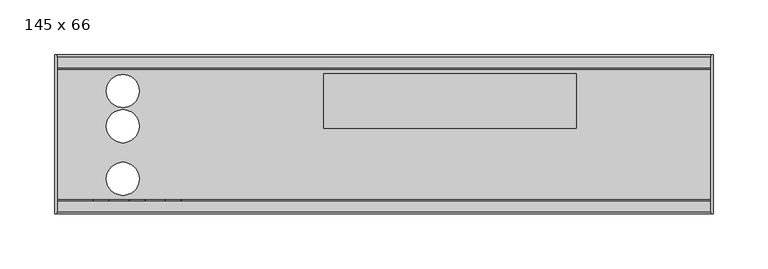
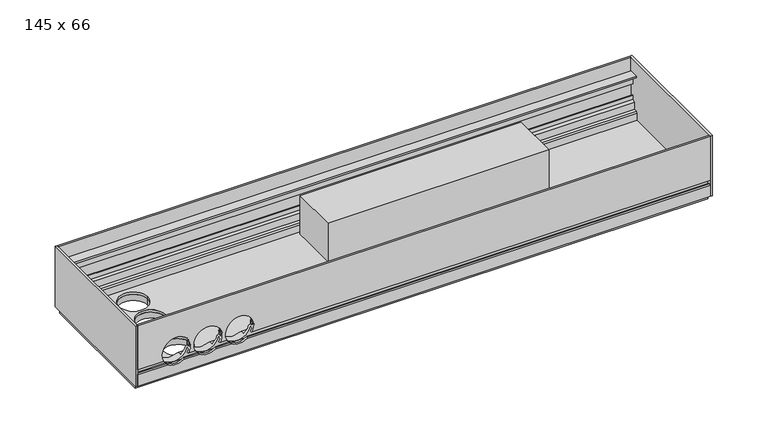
"""IFC4 building model written with IfcOpenShell, lengths in millimetres: proxy geometry, Mohlenhof_Внутрипольный конвектор_QSKM : 145 x 66."""

import ifcopenshell
import ifcopenshell.guid

model = None  # the IFC model being written
_history = None  # IfcOwnerHistory: only IFC2X3 demands one
_inside = {}  # id of a spatial element -> (the spatial element, [elements in it])
_under = {}  # id of a project, library or spatial element -> (it, [spatial elements below it])
_declared = {}  # id of a project -> (the project, [libraries it declares])
_typed = {}  # id of a type object -> (the type object, [elements of that type])
_made_of = {}  # id of a material, layer set ... -> (it, [elements and type objects made of it])


def new_model(schema):
    """Start an empty IFC model of exactly this schema.

    Asked for "IFC4X3", IfcOpenShell would pick the latest addendum, in which some entities
    have other attributes; the version numbers below select the first issue.
    IFC2X3 requires an IfcOwnerHistory on every rooted entity: one is made here for all.
    """
    global model, _history
    if schema == "IFC4X3":
        model = ifcopenshell.file(schema_version=(4, 3, 0, 0))
    else:
        model = ifcopenshell.file(schema=schema)
    _inside.clear()
    _under.clear()
    _declared.clear()
    _typed.clear()
    _made_of.clear()
    _history = None
    if model.schema == "IFC2X3":
        org = make("IfcOrganization", Name="unknown")
        user = make(
            "IfcPersonAndOrganization",
            ThePerson=make("IfcPerson", FamilyName="unknown"),
            TheOrganization=org,
        )
        app = make(
            "IfcApplication",
            ApplicationDeveloper=org,
            Version="unknown",
            ApplicationFullName="unknown",
            ApplicationIdentifier="unknown",
        )
        _history = make(
            "IfcOwnerHistory",
            OwningUser=user,
            OwningApplication=app,
            ChangeAction="ADDED",
            CreationDate=0,
        )
    return model


def make(cls, **values):
    """One entity of the class cls with the attributes given. An attribute that is None is left unset."""
    return model.create_entity(
        cls, **{name: value for name, value in values.items() if value is not None}
    )


def rooted(cls, **values):
    """An entity with a GlobalId (a new one), such as an element, a storey or a relation."""
    return make(cls, GlobalId=ifcopenshell.guid.new(), OwnerHistory=_history, **values)


def si_unit(unit_type, name, prefix=None):
    """IfcSIUnit, for example si_unit("LENGTHUNIT", "METRE", prefix="MILLI")."""
    return make("IfcSIUnit", UnitType=unit_type, Prefix=prefix, Name=name)


def assignment(units):
    """IfcUnitAssignment: the units of a project."""
    return None if units is None else make("IfcUnitAssignment", Units=units)


def point(xyz):
    """IfcCartesianPoint."""
    return None if xyz is None else make("IfcCartesianPoint", Coordinates=xyz)


def direction(xyz):
    """IfcDirection."""
    return None if xyz is None else make("IfcDirection", DirectionRatios=xyz)


def frame(location, z_axis=None, x_axis=None):
    """IfcAxis2Placement3D, a coordinate frame: its origin and axes. An axis left out is left unset."""
    return make(
        "IfcAxis2Placement3D",
        Location=point(location),
        Axis=direction(z_axis),
        RefDirection=direction(x_axis),
    )


def frame_2d(location, x_axis=None):
    """IfcAxis2Placement2D, a coordinate frame in the plane: its origin and x axis."""
    return make(
        "IfcAxis2Placement2D", Location=point(location), RefDirection=direction(x_axis)
    )


def origin():
    """The frame at (0, 0, 0) with its axes left unset."""
    return frame((0.0, 0.0, 0.0))


def place(relative_to, where):
    """IfcLocalPlacement: puts the frame where relative to a parent placement (None: the world)."""
    return make(
        "IfcLocalPlacement", PlacementRelTo=relative_to, RelativePlacement=where
    )


def context(
    kind, dimensions, precision=None, world=None, true_north=None, identifier=None
):
    """IfcGeometricRepresentationContext, for example the 3D "Model" context."""
    return make(
        "IfcGeometricRepresentationContext",
        ContextIdentifier=identifier,
        ContextType=kind,
        CoordinateSpaceDimension=dimensions,
        Precision=precision,
        WorldCoordinateSystem=world,
        TrueNorth=true_north,
    )


def project(units=None, contexts=None):
    """IfcProject with its units and contexts."""
    return rooted(
        "IfcProject",
        Name="project",
        RepresentationContexts=contexts,
        UnitsInContext=assignment(units),
    )


def spatial(cls, under=None, at=None, **own):
    """A site, building, storey or space (cls), placed at a placement, below another one or the project."""
    s = rooted(cls, ObjectPlacement=at, **own)
    if under is not None:
        _under.setdefault(under.id(), (under, []))[1].append(s)
    return s


def polyline(points):
    """IfcPolyline through the points."""
    return make("IfcPolyline", Points=[point(p) for p in points])


def circle_curve(where, radius):
    """IfcCircle in the frame where."""
    return make("IfcCircle", Position=where, Radius=radius)


def ellipse_curve(where, semi_axis1, semi_axis2):
    """IfcEllipse in the frame where."""
    return make(
        "IfcEllipse", Position=where, SemiAxis1=semi_axis1, SemiAxis2=semi_axis2
    )


def trimmed(basis, trim1, trim2, sense, master):
    """IfcTrimmedCurve: the piece of a basis curve between two trims."""
    return make(
        "IfcTrimmedCurve",
        BasisCurve=basis,
        Trim1=trim1,
        Trim2=trim2,
        SenseAgreement=sense,
        MasterRepresentation=master,
    )


def segment(curve, same_sense, transition):
    """IfcCompositeCurveSegment."""
    return make(
        "IfcCompositeCurveSegment",
        Transition=transition,
        SameSense=same_sense,
        ParentCurve=curve,
    )


def composite_curve(segments, self_intersect=None):
    """IfcCompositeCurve: segments joined end to end."""
    return make("IfcCompositeCurve", Segments=segments, SelfIntersect=self_intersect)


def outline(outer, holes=None, kind="AREA"):
    """IfcArbitraryClosedProfileDef: a profile drawn as a closed curve; with holes, ...WithVoids."""
    if holes is None:
        return make("IfcArbitraryClosedProfileDef", ProfileType=kind, OuterCurve=outer)
    return make(
        "IfcArbitraryProfileDefWithVoids",
        ProfileType=kind,
        OuterCurve=outer,
        InnerCurves=holes,
    )


def extrude(swept, where, along, depth):
    """IfcExtrudedAreaSolid: the profile swept, set in the frame where, extruded along a direction by depth."""
    return make(
        "IfcExtrudedAreaSolid",
        SweptArea=swept,
        Position=where,
        ExtrudedDirection=direction(along),
        Depth=depth,
    )


def shape(context_of_items, identifier, shape_type, items):
    """IfcShapeRepresentation: the items that make up one representation, for example the "Body"."""
    return make(
        "IfcShapeRepresentation",
        ContextOfItems=context_of_items,
        RepresentationIdentifier=identifier,
        RepresentationType=shape_type,
        Items=items,
    )


def source(mapping_origin, context_of_items, identifier, shape_type, items):
    """IfcRepresentationMap: a shape defined once, which mapped items show again and again."""
    return make(
        "IfcRepresentationMap",
        MappingOrigin=mapping_origin,
        MappedRepresentation=shape(context_of_items, identifier, shape_type, items),
    )


def transform(
    local_origin,
    x_axis=None,
    y_axis=None,
    z_axis=None,
    scale=None,
    scale2=None,
    scale3=None,
    uniform=True,
):
    """IfcCartesianTransformationOperator3D, or its non-uniform kind. x_axis, y_axis, z_axis: its Axis1, 2, 3."""
    if uniform:
        return make(
            "IfcCartesianTransformationOperator3D",
            Axis1=direction(x_axis),
            Axis2=direction(y_axis),
            LocalOrigin=point(local_origin),
            Scale=scale,
            Axis3=direction(z_axis),
        )
    return make(
        "IfcCartesianTransformationOperator3DnonUniform",
        Axis1=direction(x_axis),
        Axis2=direction(y_axis),
        LocalOrigin=point(local_origin),
        Scale=scale,
        Axis3=direction(z_axis),
        Scale2=scale2,
        Scale3=scale3,
    )


def mapped(mapping_source, mapping_target):
    """IfcMappedItem: shows the shape of a source again, moved by a transform."""
    return make(
        "IfcMappedItem", MappingSource=mapping_source, MappingTarget=mapping_target
    )


def made_of(thing, what):
    """Note that an element or type object is made of a material, layer set ...; save() writes the relation."""
    if what is not None:
        _made_of.setdefault(what.id(), (what, []))[1].append(thing)
    return thing


def element(
    cls,
    number,
    at=None,
    inside=None,
    cuts=None,
    type_object=None,
    material=None,
    context=None,
    identifier="Body",
    shape_type=None,
    held_by="IfcProductDefinitionShape",
    body=None,
    shapes=None,
    **own,
):
    """One element of the class cls, such as IfcWall. Its Tag is "e" and its number.

    at: its placement. inside: the storey or other place that contains it. cuts: it is an
    opening in that element (IfcRelVoidsElement). A single representation is given by context,
    identifier, shape_type and body (its items); several are given by shapes. held_by: the class
    of the entity that holds the representations. save() writes the other relations.
    """
    e = rooted(cls, Tag="e%d" % number, ObjectPlacement=at, **own)
    if body is not None:
        shapes = [shape(context, identifier, shape_type, body)]
    if shapes is not None:
        e.Representation = make(held_by, Representations=shapes)
    if inside is not None:
        _inside.setdefault(inside.id(), (inside, []))[1].append(e)
    if cuts is not None:
        rooted(
            "IfcRelVoidsElement", RelatingBuildingElement=cuts, RelatedOpeningElement=e
        )
    if type_object is not None:
        _typed.setdefault(type_object.id(), (type_object, []))[1].append(e)
    return made_of(e, material)


def aggregate(whole, parts):
    """IfcRelAggregates: a whole, such as a stair, and the parts it consists of."""
    return rooted("IfcRelAggregates", RelatingObject=whole, RelatedObjects=parts)


def save(model, path):
    """Write the relations noted so far, then the file.

    IfcRelAggregates (storeys below a building ...), IfcRelContainedInSpatialStructure (elements
    in a storey), IfcRelDefinesByType, IfcRelAssociatesMaterial and IfcRelDeclares: one each for
    every whole, place, type object, material and project.
    """
    for whole, parts in _under.values():
        aggregate(whole, parts)
    for where, things in _inside.values():
        rooted(
            "IfcRelContainedInSpatialStructure",
            RelatedElements=things,
            RelatingStructure=where,
        )
    for kind, things in _typed.values():
        rooted("IfcRelDefinesByType", RelatedObjects=things, RelatingType=kind)
    for what, things in _made_of.values():
        rooted("IfcRelAssociatesMaterial", RelatedObjects=things, RelatingMaterial=what)
    for by, libraries in _declared.values():
        rooted("IfcRelDeclares", RelatingContext=by, RelatedDefinitions=libraries)
    model.write(path)


def plane_surface(at):
    """IfcPlane: the flat surface through the origin of the frame at, square to its z axis."""
    return make("IfcPlane", Position=at)


def revolved_surface(curve, axis_point, axis_direction):
    """IfcSurfaceOfRevolution: the curve turned about the line through axis_point along axis_direction."""
    return make(
        "IfcSurfaceOfRevolution",
        SweptCurve=make("IfcArbitraryOpenProfileDef", ProfileType="CURVE", Curve=curve),
        AxisPosition=make("IfcAxis1Placement", Location=point(axis_point), Axis=direction(axis_direction)),
    )


def advanced_brep(points, edges, surfaces, faces):
    """IfcAdvancedBrep: a solid bounded by faces that lie on surfaces and meet in shared edges.

    An edge is (start, end): straight between two places in points (the first is 0);
    or (start, end, curve); or (start, end, curve, False) where it runs against its curve.
    A face is (place in surfaces, loops), or (place, loops, False) where it looks against
    its surface's normal. A loop lists edges by number (the first is 1), with a minus sign
    where the edge is run from its end to its start. The first loop is the outer one.
    """
    corners = [point(p) for p in points]
    vertices = [make("IfcVertexPoint", VertexGeometry=c) for c in corners]
    made = []
    for start, end, *more in edges:
        made.append(
            make(
                "IfcEdgeCurve",
                EdgeStart=vertices[start],
                EdgeEnd=vertices[end],
                EdgeGeometry=more[0] if more else make("IfcPolyline", Points=[corners[start], corners[end]]),
                SameSense=more[1] if len(more) > 1 else True,
            )
        )
    hull = []
    for where, loops, *sense in faces:
        bounds = []
        for j, loop in enumerate(loops):
            ring = [make("IfcOrientedEdge", EdgeElement=made[abs(k) - 1], Orientation=k > 0) for k in loop]
            bounds.append(
                make(
                    "IfcFaceOuterBound" if j == 0 else "IfcFaceBound",
                    Bound=make("IfcEdgeLoop", EdgeList=ring),
                    Orientation=True,
                )
            )
        hull.append(make("IfcAdvancedFace", Bounds=bounds, FaceSurface=surfaces[where], SameSense=sense[0] if sense else True))
    return make("IfcAdvancedBrep", Outer=make("IfcClosedShell", CfsFaces=hull))


def proxy_145_x_66_3a62f989(model_context):
    return source(origin(), model_context, "Body", "SolidModel", [
        advanced_brep(
        [(298.0, -245.0, -48.5473602), (298.0, -243.5, -49.2468216), (298.0, -242.5, -49.2468216), (298.0, -242.5, -46.0008038), (298.0, -240.0, -46.0008038), (298.0, -240.0, -56.5008038), (298.0, -242.5, -56.5008038), (298.0, -242.5, -53.2468216), (298.0, -243.5, -53.2468216), (298.0, -245.0, -53.9462831), (298.0, -245.0, -66.5), (298.0, -241.0, -66.5), (298.0, -241.0, -65.2), (298.0, -243.0, -65.2), (298.0, -243.0, -62.5), (298.0, -232.0, -62.5), (298.0, -232.0, -54.9172677), (298.0, -233.4172677, -53.5), (298.0, -237.0, -53.5), (298.0, -237.0, -45.91), (298.0, -239.0, -43.91), (298.0, -239.0, -39.5), (298.0, -240.0, -39.5), (298.0, -240.0, -43.5), (298.0, -242.4956439, -43.5), (298.0, -242.4956439, -23.0), (298.0, -240.0, -23.0), (298.0, -240.0, -27.0), (298.0, -239.0, -27.0), (298.0, -239.0, -17.0), (298.0, -233.3956439, -17.0), (298.0, -233.3956439, -15.0), (298.0, -243.4, -15.0), (298.0, -243.4, 0.0), (298.0, -245.0, 0.0), (-298.0, -245.0, -48.5473602), (-298.0, -245.0, 0.0), (-298.0, -243.4, 0.0), (-298.0, -243.4, -15.0), (-298.0, -233.3956439, -15.0), (-298.0, -233.3956439, -17.0), (-298.0, -239.0, -17.0), (-298.0, -239.0, -27.0), (-298.0, -240.0, -27.0), (-298.0, -240.0, -23.0), (-298.0, -242.4956439, -23.0), (-298.0, -242.4956439, -43.5), (-298.0, -240.0, -43.5), (-298.0, -240.0, -39.5), (-298.0, -239.0, -39.5), (-298.0, -239.0, -43.91), (-298.0, -237.0, -45.91), (-298.0, -237.0, -53.5), (-298.0, -233.4172677, -53.5), (-298.0, -232.0, -54.9172677), (-298.0, -232.0, -62.5), (-298.0, -243.0, -62.5), (-298.0, -243.0, -65.2), (-298.0, -241.0, -65.2), (-298.0, -241.0, -66.5), (-298.0, -245.0, -66.5), (-298.0, -245.0, -53.9462831), (-298.0, -243.5, -53.2468216), (-298.0, -242.5, -53.2468216), (-298.0, -242.5, -56.5008038), (-298.0, -240.0, -56.5008038), (-298.0, -240.0, -46.0008038), (-298.0, -242.5, -46.0008038), (-298.0, -242.5, -49.2468216), (-298.0, -243.5, -49.2468216), (-178.7585985, -245.0, -48.5473602), (-179.155283, -243.5, -49.2468216), (-270.844717, -243.5, -49.2468216), (-271.2414015, -245.0, -48.5473602), (-238.2414015, -245.0, -48.5473602), (-244.7585985, -245.0, -48.5473602), (-245.155283, -243.5, -49.2468216), (-237.844717, -243.5, -49.2468216), (-205.2414015, -245.0, -48.5473602), (-211.7585985, -245.0, -48.5473602), (-212.155283, -243.5, -49.2468216), (-204.844717, -243.5, -49.2468216), (-179.155283, -242.5, -49.2468216), (-270.844717, -242.5, -49.2468216), (-245.155283, -242.5, -49.2468216), (-237.844717, -242.5, -49.2468216), (-212.155283, -242.5, -49.2468216), (-204.844717, -242.5, -49.2468216), (-177.6911648, -242.5, -46.0008038), (-272.3088352, -242.5, -46.0008038), (-243.6911648, -242.5, -46.0008038), (-239.3088352, -242.5, -46.0008038), (-210.6911648, -242.5, -46.0008038), (-206.3088352, -242.5, -46.0008038), (-177.6911648, -240.0, -46.0008038), (-272.3088352, -240.0, -46.0008038), (-243.6911648, -240.0, -46.0008038), (-239.3088352, -240.0, -46.0008038), (-210.6911648, -240.0, -46.0008038), (-206.3088352, -240.0, -46.0008038), (-267.328032, -242.5, -53.2468216), (-248.671968, -242.5, -53.2468216), (-234.328032, -242.5, -53.2468216), (-215.671968, -242.5, -53.2468216), (-201.328032, -242.5, -53.2468216), (-182.671968, -242.5, -53.2468216), (-182.671968, -243.5, -53.2468216), (-267.328032, -243.5, -53.2468216), (-248.671968, -243.5, -53.2468216), (-234.328032, -243.5, -53.2468216), (-215.671968, -243.5, -53.2468216), (-201.328032, -243.5, -53.2468216), (-183.6280208, -245.0, -53.9462831), (-266.3719792, -245.0, -53.9462831), (-249.6280208, -245.0, -53.9462831), (-233.3719792, -245.0, -53.9462831), (-216.6280208, -245.0, -53.9462831), (-200.3719792, -245.0, -53.9462831), (-264.7064841, -232.0, -54.9172677), (-251.2935159, -232.0, -54.9172677), (-231.7064841, -232.0, -54.9172677), (-218.2935159, -232.0, -54.9172677), (-198.7064841, -232.0, -54.9172677), (-185.2935159, -232.0, -54.9172677), (-183.0, -233.4172677, -53.5), (-267.0, -233.4172677, -53.5), (-249.0, -233.4172677, -53.5), (-234.0, -233.4172677, -53.5), (-216.0, -233.4172677, -53.5), (-201.0, -233.4172677, -53.5), (-183.0, -237.0, -53.5), (-267.0, -237.0, -53.5), (-249.0, -237.0, -53.5), (-234.0, -237.0, -53.5), (-216.0, -237.0, -53.5), (-201.0, -237.0, -53.5), (-177.6629187, -237.0, -45.91), (-272.3370813, -237.0, -45.91), (-243.6629187, -237.0, -45.91), (-239.3370813, -237.0, -45.91), (-210.6629187, -237.0, -45.91), (-206.3370813, -237.0, -45.91), (-177.1948691, -239.0, -43.91), (-272.8051309, -239.0, -43.91), (-243.1948691, -239.0, -43.91), (-239.8051309, -239.0, -43.91), (-210.1948691, -239.0, -43.91), (-206.8051309, -239.0, -43.91), (-177.0, -239.0, -41.5), (-177.1339313, -239.0, -39.5), (-272.8660687, -239.0, -39.5), (-273.0, -239.0, -41.5), (-243.0, -239.0, -41.5), (-243.1339313, -239.0, -39.5), (-239.8660687, -239.0, -39.5), (-240.0, -239.0, -41.5), (-210.0, -239.0, -41.5), (-210.1339313, -239.0, -39.5), (-206.8660687, -239.0, -39.5), (-207.0, -239.0, -41.5), (-177.1339313, -240.0, -39.5), (-272.8660687, -240.0, -39.5), (-243.1339313, -240.0, -39.5), (-239.8660687, -240.0, -39.5), (-210.1339313, -240.0, -39.5), (-206.8660687, -240.0, -39.5), (-177.0, -240.0, -41.5), (-177.1339313, -240.0, -43.5), (-272.8660687, -240.0, -43.5), (-273.0, -240.0, -41.5), (-243.0, -240.0, -41.5), (-243.1339313, -240.0, -43.5), (-239.8660687, -240.0, -43.5), (-240.0, -240.0, -41.5), (-210.0, -240.0, -41.5), (-210.1339313, -240.0, -43.5), (-206.8660687, -240.0, -43.5), (-207.0, -240.0, -41.5), (-177.1339313, -242.4956439, -43.5), (-272.8660687, -242.4956439, -43.5), (-243.1339313, -242.4956439, -43.5), (-239.8660687, -242.4956439, -43.5), (-210.1339313, -242.4956439, -43.5), (-206.8660687, -242.4956439, -43.5), (-177.0, -242.4956439, -41.5), (-207.0, -242.4956439, -41.5), (-210.0, -242.4956439, -41.5), (-240.0, -242.4956439, -41.5), (-243.0, -242.4956439, -41.5), (-273.0, -242.4956439, -41.5), (-261.8405729, -240.0, -27.0), (-254.1594271, -240.0, -27.0), (-228.8405729, -240.0, -27.0), (-221.1594271, -240.0, -27.0), (-195.8405729, -240.0, -27.0), (-188.1594271, -240.0, -27.0), (-188.1594271, -239.0, -27.0), (-261.8405729, -239.0, -27.0), (-254.1594271, -239.0, -27.0), (-228.8405729, -239.0, -27.0), (-221.1594271, -239.0, -27.0), (-195.8405729, -239.0, -27.0), (-273.0, -245.0, -41.5), (-243.0, -245.0, -41.5), (-240.0, -245.0, -41.5), (-210.0, -245.0, -41.5), (-207.0, -245.0, -41.5), (-177.0, -245.0, -41.5)],
        [
            (0, 1),
            (1, 2),
            (2, 3),
            (3, 4),
            (4, 5),
            (5, 6),
            (6, 7),
            (7, 8),
            (8, 9),
            (9, 10),
            (10, 11),
            (11, 12),
            (12, 13),
            (13, 14),
            (14, 15),
            (15, 16),
            (16, 17),
            (17, 18),
            (18, 19),
            (19, 20),
            (20, 21),
            (21, 22),
            (22, 23),
            (23, 24),
            (24, 25),
            (25, 26),
            (26, 27),
            (27, 28),
            (28, 29),
            (29, 30),
            (30, 31),
            (31, 32),
            (32, 33),
            (33, 34),
            (34, 0),
            (35, 36),
            (36, 37),
            (37, 38),
            (38, 39),
            (39, 40),
            (40, 41),
            (41, 42),
            (42, 43),
            (43, 44),
            (44, 45),
            (45, 46),
            (46, 47),
            (47, 48),
            (48, 49),
            (49, 50),
            (50, 51),
            (51, 52),
            (52, 53),
            (53, 54),
            (54, 55),
            (55, 56),
            (56, 57),
            (57, 58),
            (58, 59),
            (59, 60),
            (60, 61),
            (61, 62),
            (62, 63),
            (63, 64),
            (64, 65),
            (65, 66),
            (66, 67),
            (67, 68),
            (68, 69),
            (69, 35),
            (0, 70),
            (70, 71, ellipse_curve(frame((-192.0, -260.1131126, -41.5), z_axis=(0.0, 0.42261826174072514, 0.9063077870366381), x_axis=(0.0, -0.9063077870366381, 0.42261826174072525)), 35.4930237, 15.0)),
            (71, 1),
            (69, 72),
            (72, 73, ellipse_curve(frame((-258.0, -260.1131126, -41.5), z_axis=(0.0, 0.42261826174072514, 0.9063077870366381), x_axis=(0.0, -0.9063077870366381, 0.42261826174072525)), 35.4930237, 15.0)),
            (73, 35),
            (74, 75),
            (75, 76, ellipse_curve(frame((-258.0, -260.1131126, -41.5), z_axis=(0.0, 0.42261826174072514, 0.9063077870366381), x_axis=(0.0, -0.9063077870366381, 0.42261826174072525)), 35.4930237, 15.0)),
            (76, 77),
            (77, 74, ellipse_curve(frame((-225.0, -260.1131126, -41.5), z_axis=(0.0, 0.42261826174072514, 0.9063077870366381), x_axis=(0.0, -0.9063077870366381, 0.42261826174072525)), 35.4930237, 15.0)),
            (78, 79),
            (79, 80, ellipse_curve(frame((-225.0, -260.1131126, -41.5), z_axis=(0.0, 0.42261826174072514, 0.9063077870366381), x_axis=(0.0, -0.9063077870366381, 0.42261826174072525)), 35.4930237, 15.0)),
            (80, 81),
            (81, 78, ellipse_curve(frame((-192.0, -260.1131126, -41.5), z_axis=(0.0, 0.42261826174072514, 0.9063077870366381), x_axis=(0.0, -0.9063077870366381, 0.42261826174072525)), 35.4930237, 15.0)),
            (71, 82),
            (82, 2),
            (68, 83),
            (83, 72),
            (76, 84),
            (84, 85),
            (85, 77),
            (80, 86),
            (86, 87),
            (87, 81),
            (82, 88, circle_curve(frame((-192.0, -242.5, -41.5), z_axis=(0.0, -1.0, 0.0), x_axis=(1.0, 0.0, 0.0)), 15.0)),
            (88, 3),
            (67, 89),
            (89, 83, circle_curve(frame((-258.0, -242.5, -41.5), z_axis=(0.0, -1.0, 0.0), x_axis=(1.0, 0.0, 0.0)), 15.0)),
            (84, 90, circle_curve(frame((-258.0, -242.5, -41.5), z_axis=(0.0, -1.0, 0.0), x_axis=(1.0, 0.0, 0.0)), 15.0)),
            (90, 91),
            (91, 85, circle_curve(frame((-225.0, -242.5, -41.5), z_axis=(0.0, -1.0, 0.0), x_axis=(1.0, 0.0, 0.0)), 15.0)),
            (86, 92, circle_curve(frame((-225.0, -242.5, -41.5), z_axis=(0.0, -1.0, 0.0), x_axis=(1.0, 0.0, 0.0)), 15.0)),
            (92, 93),
            (93, 87, circle_curve(frame((-192.0, -242.5, -41.5), z_axis=(0.0, -1.0, 0.0), x_axis=(1.0, 0.0, 0.0)), 15.0)),
            (88, 94),
            (94, 4),
            (66, 95),
            (95, 89),
            (90, 96),
            (96, 97),
            (97, 91),
            (92, 98),
            (98, 99),
            (99, 93),
            (94, 99, circle_curve(frame((-192.0, -240.0, -41.5), z_axis=(0.0, 1.0, 0.0), x_axis=(1.0, 0.0, 0.0)), 15.0)),
            (98, 97, circle_curve(frame((-225.0, -240.0, -41.5), z_axis=(0.0, 1.0, 0.0), x_axis=(1.0, 0.0, 0.0)), 15.0)),
            (96, 95, circle_curve(frame((-258.0, -240.0, -41.5), z_axis=(0.0, 1.0, 0.0), x_axis=(1.0, 0.0, 0.0)), 15.0)),
            (65, 5),
            (64, 6),
            (63, 100),
            (100, 101, circle_curve(frame((-258.0, -242.5, -41.5), z_axis=(0.0, -1.0, 0.0), x_axis=(1.0, 0.0, 0.0)), 15.0)),
            (101, 102),
            (102, 103, circle_curve(frame((-225.0, -242.5, -41.5), z_axis=(0.0, -1.0, 0.0), x_axis=(1.0, 0.0, 0.0)), 15.0)),
            (103, 104),
            (104, 105, circle_curve(frame((-192.0, -242.5, -41.5), z_axis=(0.0, -1.0, 0.0), x_axis=(1.0, 0.0, 0.0)), 15.0)),
            (105, 7),
            (105, 106),
            (106, 8),
            (62, 107),
            (107, 100),
            (101, 108),
            (108, 109),
            (109, 102),
            (103, 110),
            (110, 111),
            (111, 104),
            (106, 112, ellipse_curve(frame((-192.0, -218.3088597, -41.5), z_axis=(0.0, 0.42261826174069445, -0.9063077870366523), x_axis=(0.0, -0.9063077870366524, -0.42261826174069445)), 35.4930237, 15.0)),
            (112, 9),
            (61, 113),
            (113, 107, ellipse_curve(frame((-258.0, -218.3088597, -41.5), z_axis=(0.0, 0.42261826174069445, -0.9063077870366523), x_axis=(0.0, -0.9063077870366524, -0.42261826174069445)), 35.4930237, 15.0)),
            (108, 114, ellipse_curve(frame((-258.0, -218.3088597, -41.5), z_axis=(0.0, 0.42261826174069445, -0.9063077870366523), x_axis=(0.0, -0.9063077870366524, -0.42261826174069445)), 35.4930237, 15.0)),
            (114, 115),
            (115, 109, ellipse_curve(frame((-225.0, -218.3088597, -41.5), z_axis=(0.0, 0.42261826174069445, -0.9063077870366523), x_axis=(0.0, -0.9063077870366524, -0.42261826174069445)), 35.4930237, 15.0)),
            (110, 116, ellipse_curve(frame((-225.0, -218.3088597, -41.5), z_axis=(0.0, 0.42261826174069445, -0.9063077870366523), x_axis=(0.0, -0.9063077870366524, -0.42261826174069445)), 35.4930237, 15.0)),
            (116, 117),
            (117, 111, ellipse_curve(frame((-192.0, -218.3088597, -41.5), z_axis=(0.0, 0.42261826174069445, -0.9063077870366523), x_axis=(0.0, -0.9063077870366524, -0.42261826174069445)), 35.4930237, 15.0)),
            (112, 117, circle_curve(frame((-192.0, -245.0, -41.5), z_axis=(0.0, 1.0, 0.0), x_axis=(1.0, 0.0, 0.0)), 15.0)),
            (116, 115, circle_curve(frame((-225.0, -245.0, -41.5), z_axis=(0.0, 1.0, 0.0), x_axis=(1.0, 0.0, 0.0)), 15.0)),
            (114, 113, circle_curve(frame((-258.0, -245.0, -41.5), z_axis=(0.0, 1.0, 0.0), x_axis=(1.0, 0.0, 0.0)), 15.0)),
            (60, 10),
            (59, 11),
            (58, 12),
            (57, 13),
            (56, 14),
            (55, 15),
            (54, 118),
            (118, 119, circle_curve(frame((-258.0, -232.0, -41.5), z_axis=(0.0, -1.0, 0.0), x_axis=(1.0, 0.0, 0.0)), 15.0)),
            (119, 120),
            (120, 121, circle_curve(frame((-225.0, -232.0, -41.5), z_axis=(0.0, -1.0, 0.0), x_axis=(1.0, 0.0, 0.0)), 15.0)),
            (121, 122),
            (122, 123, circle_curve(frame((-192.0, -232.0, -41.5), z_axis=(0.0, -1.0, 0.0), x_axis=(1.0, 0.0, 0.0)), 15.0)),
            (123, 16),
            (123, 124, ellipse_curve(frame((-192.0, -245.4172677, -41.5), z_axis=(0.0, -0.7071067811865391, -0.707106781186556), x_axis=(0.0, -0.7071067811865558, 0.7071067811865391)), 21.2132034, 15.0)),
            (124, 17),
            (53, 125),
            (125, 118, ellipse_curve(frame((-258.0, -245.4172677, -41.5), z_axis=(0.0, -0.7071067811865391, -0.707106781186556), x_axis=(0.0, -0.7071067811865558, 0.7071067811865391)), 21.2132034, 15.0)),
            (119, 126, ellipse_curve(frame((-258.0, -245.4172677, -41.5), z_axis=(0.0, -0.7071067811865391, -0.707106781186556), x_axis=(0.0, -0.7071067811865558, 0.7071067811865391)), 21.2132034, 15.0)),
            (126, 127),
            (127, 120, ellipse_curve(frame((-225.0, -245.4172677, -41.5), z_axis=(0.0, -0.7071067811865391, -0.707106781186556), x_axis=(0.0, -0.7071067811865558, 0.7071067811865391)), 21.2132034, 15.0)),
            (121, 128, ellipse_curve(frame((-225.0, -245.4172677, -41.5), z_axis=(0.0, -0.7071067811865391, -0.707106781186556), x_axis=(0.0, -0.7071067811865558, 0.7071067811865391)), 21.2132034, 15.0)),
            (128, 129),
            (129, 122, ellipse_curve(frame((-192.0, -245.4172677, -41.5), z_axis=(0.0, -0.7071067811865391, -0.707106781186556), x_axis=(0.0, -0.7071067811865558, 0.7071067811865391)), 21.2132034, 15.0)),
            (124, 130),
            (130, 18),
            (52, 131),
            (131, 125),
            (126, 132),
            (132, 133),
            (133, 127),
            (128, 134),
            (134, 135),
            (135, 129),
            (130, 136, circle_curve(frame((-192.0, -237.0, -41.5), z_axis=(0.0, -1.0, 0.0), x_axis=(1.0, 0.0, 0.0)), 15.0)),
            (136, 19),
            (51, 137),
            (137, 131, circle_curve(frame((-258.0, -237.0, -41.5), z_axis=(0.0, -1.0, 0.0), x_axis=(1.0, 0.0, 0.0)), 15.0)),
            (132, 138, circle_curve(frame((-258.0, -237.0, -41.5), z_axis=(0.0, -1.0, 0.0), x_axis=(1.0, 0.0, 0.0)), 15.0)),
            (138, 139),
            (139, 133, circle_curve(frame((-225.0, -237.0, -41.5), z_axis=(0.0, -1.0, 0.0), x_axis=(1.0, 0.0, 0.0)), 15.0)),
            (134, 140, circle_curve(frame((-225.0, -237.0, -41.5), z_axis=(0.0, -1.0, 0.0), x_axis=(1.0, 0.0, 0.0)), 15.0)),
            (140, 141),
            (141, 135, circle_curve(frame((-192.0, -237.0, -41.5), z_axis=(0.0, -1.0, 0.0), x_axis=(1.0, 0.0, 0.0)), 15.0)),
            (136, 142, ellipse_curve(frame((-192.0, -241.41, -41.5), z_axis=(0.0, -0.7071067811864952, -0.7071067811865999), x_axis=(0.0, -0.7071067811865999, 0.7071067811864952)), 21.2132034, 15.0)),
            (142, 20),
            (50, 143),
            (143, 137, ellipse_curve(frame((-258.0, -241.41, -41.5), z_axis=(0.0, -0.7071067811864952, -0.7071067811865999), x_axis=(0.0, -0.7071067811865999, 0.7071067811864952)), 21.2132034, 15.0)),
            (138, 144, ellipse_curve(frame((-258.0, -241.41, -41.5), z_axis=(0.0, -0.7071067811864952, -0.7071067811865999), x_axis=(0.0, -0.7071067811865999, 0.7071067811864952)), 21.2132034, 15.0)),
            (144, 145),
            (145, 139, ellipse_curve(frame((-225.0, -241.41, -41.5), z_axis=(0.0, -0.7071067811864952, -0.7071067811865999), x_axis=(0.0, -0.7071067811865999, 0.7071067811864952)), 21.2132034, 15.0)),
            (140, 146, ellipse_curve(frame((-225.0, -241.41, -41.5), z_axis=(0.0, -0.7071067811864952, -0.7071067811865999), x_axis=(0.0, -0.7071067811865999, 0.7071067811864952)), 21.2132034, 15.0)),
            (146, 147),
            (147, 141, ellipse_curve(frame((-192.0, -241.41, -41.5), z_axis=(0.0, -0.7071067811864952, -0.7071067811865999), x_axis=(0.0, -0.7071067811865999, 0.7071067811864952)), 21.2132034, 15.0)),
            (142, 148, circle_curve(frame((-192.0, -239.0, -41.5), z_axis=(0.0, -1.0, 0.0), x_axis=(1.0, 0.0, 0.0)), 15.0)),
            (148, 149, circle_curve(frame((-192.0, -239.0, -41.5), z_axis=(0.0, -1.0, 0.0), x_axis=(1.0, 0.0, 0.0)), 15.0)),
            (149, 21),
            (49, 150),
            (150, 151, circle_curve(frame((-258.0, -239.0, -41.5), z_axis=(0.0, -1.0, 0.0), x_axis=(1.0, 0.0, 0.0)), 15.0)),
            (151, 143, circle_curve(frame((-258.0, -239.0, -41.5), z_axis=(0.0, -1.0, 0.0), x_axis=(1.0, 0.0, 0.0)), 15.0)),
            (144, 152, circle_curve(frame((-258.0, -239.0, -41.5), z_axis=(0.0, -1.0, 0.0), x_axis=(1.0, 0.0, 0.0)), 15.0)),
            (152, 153, circle_curve(frame((-258.0, -239.0, -41.5), z_axis=(0.0, -1.0, 0.0), x_axis=(1.0, 0.0, 0.0)), 15.0)),
            (153, 154),
            (154, 155, circle_curve(frame((-225.0, -239.0, -41.5), z_axis=(0.0, -1.0, 0.0), x_axis=(1.0, 0.0, 0.0)), 15.0)),
            (155, 145, circle_curve(frame((-225.0, -239.0, -41.5), z_axis=(0.0, -1.0, 0.0), x_axis=(1.0, 0.0, 0.0)), 15.0)),
            (146, 156, circle_curve(frame((-225.0, -239.0, -41.5), z_axis=(0.0, -1.0, 0.0), x_axis=(1.0, 0.0, 0.0)), 15.0)),
            (156, 157, circle_curve(frame((-225.0, -239.0, -41.5), z_axis=(0.0, -1.0, 0.0), x_axis=(1.0, 0.0, 0.0)), 15.0)),
            (157, 158),
            (158, 159, circle_curve(frame((-192.0, -239.0, -41.5), z_axis=(0.0, -1.0, 0.0), x_axis=(1.0, 0.0, 0.0)), 15.0)),
            (159, 147, circle_curve(frame((-192.0, -239.0, -41.5), z_axis=(0.0, -1.0, 0.0), x_axis=(1.0, 0.0, 0.0)), 15.0)),
            (149, 160),
            (160, 22),
            (48, 161),
            (161, 150),
            (153, 162),
            (162, 163),
            (163, 154),
            (157, 164),
            (164, 165),
            (165, 158),
            (160, 166, circle_curve(frame((-192.0, -240.0, -41.5), z_axis=(0.0, 1.0, 0.0), x_axis=(1.0, 0.0, 0.0)), 15.0)),
            (166, 167, circle_curve(frame((-192.0, -240.0, -41.5), z_axis=(0.0, 1.0, 0.0), x_axis=(1.0, 0.0, 0.0)), 15.0)),
            (167, 23),
            (47, 168),
            (168, 169, circle_curve(frame((-258.0, -240.0, -41.5), z_axis=(0.0, 1.0, 0.0), x_axis=(1.0, 0.0, 0.0)), 15.0)),
            (169, 161, circle_curve(frame((-258.0, -240.0, -41.5), z_axis=(0.0, 1.0, 0.0), x_axis=(1.0, 0.0, 0.0)), 15.0)),
            (162, 170, circle_curve(frame((-258.0, -240.0, -41.5), z_axis=(0.0, 1.0, 0.0), x_axis=(1.0, 0.0, 0.0)), 15.0)),
            (170, 171, circle_curve(frame((-258.0, -240.0, -41.5), z_axis=(0.0, 1.0, 0.0), x_axis=(1.0, 0.0, 0.0)), 15.0)),
            (171, 172),
            (172, 173, circle_curve(frame((-225.0, -240.0, -41.5), z_axis=(0.0, 1.0, 0.0), x_axis=(1.0, 0.0, 0.0)), 15.0)),
            (173, 163, circle_curve(frame((-225.0, -240.0, -41.5), z_axis=(0.0, 1.0, 0.0), x_axis=(1.0, 0.0, 0.0)), 15.0)),
            (164, 174, circle_curve(frame((-225.0, -240.0, -41.5), z_axis=(0.0, 1.0, 0.0), x_axis=(1.0, 0.0, 0.0)), 15.0)),
            (174, 175, circle_curve(frame((-225.0, -240.0, -41.5), z_axis=(0.0, 1.0, 0.0), x_axis=(1.0, 0.0, 0.0)), 15.0)),
            (175, 176),
            (176, 177, circle_curve(frame((-192.0, -240.0, -41.5), z_axis=(0.0, 1.0, 0.0), x_axis=(1.0, 0.0, 0.0)), 15.0)),
            (177, 165, circle_curve(frame((-192.0, -240.0, -41.5), z_axis=(0.0, 1.0, 0.0), x_axis=(1.0, 0.0, 0.0)), 15.0)),
            (167, 178),
            (178, 24),
            (46, 179),
            (179, 168),
            (171, 180),
            (180, 181),
            (181, 172),
            (175, 182),
            (182, 183),
            (183, 176),
            (178, 184, circle_curve(frame((-192.0, -242.4956439, -41.5), z_axis=(0.0, -1.0, 0.0), x_axis=(1.0, 0.0, 0.0)), 15.0)),
            (184, 185, circle_curve(frame((-192.0, -242.4956439, -41.5), z_axis=(0.0, -1.0, 0.0), x_axis=(1.0, 0.0, 0.0)), 15.0)),
            (185, 183, circle_curve(frame((-192.0, -242.4956439, -41.5), z_axis=(0.0, -1.0, 0.0), x_axis=(1.0, 0.0, 0.0)), 15.0)),
            (182, 186, circle_curve(frame((-225.0, -242.4956439, -41.5), z_axis=(0.0, -1.0, 0.0), x_axis=(1.0, 0.0, 0.0)), 15.0)),
            (186, 187, circle_curve(frame((-225.0, -242.4956439, -41.5), z_axis=(0.0, -1.0, 0.0), x_axis=(1.0, 0.0, 0.0)), 15.0)),
            (187, 181, circle_curve(frame((-225.0, -242.4956439, -41.5), z_axis=(0.0, -1.0, 0.0), x_axis=(1.0, 0.0, 0.0)), 15.0)),
            (180, 188, circle_curve(frame((-258.0, -242.4956439, -41.5), z_axis=(0.0, -1.0, 0.0), x_axis=(1.0, 0.0, 0.0)), 15.0)),
            (188, 189, circle_curve(frame((-258.0, -242.4956439, -41.5), z_axis=(0.0, -1.0, 0.0), x_axis=(1.0, 0.0, 0.0)), 15.0)),
            (189, 179, circle_curve(frame((-258.0, -242.4956439, -41.5), z_axis=(0.0, -1.0, 0.0), x_axis=(1.0, 0.0, 0.0)), 15.0)),
            (45, 25),
            (44, 26),
            (43, 190),
            (190, 191, circle_curve(frame((-258.0, -240.0, -41.5), z_axis=(0.0, 1.0, 0.0), x_axis=(1.0, 0.0, 0.0)), 15.0)),
            (191, 192),
            (192, 193, circle_curve(frame((-225.0, -240.0, -41.5), z_axis=(0.0, 1.0, 0.0), x_axis=(1.0, 0.0, 0.0)), 15.0)),
            (193, 194),
            (194, 195, circle_curve(frame((-192.0, -240.0, -41.5), z_axis=(0.0, 1.0, 0.0), x_axis=(1.0, 0.0, 0.0)), 15.0)),
            (195, 27),
            (195, 196),
            (196, 28),
            (42, 197),
            (197, 190),
            (191, 198),
            (198, 199),
            (199, 192),
            (193, 200),
            (200, 201),
            (201, 194),
            (196, 201, circle_curve(frame((-192.0, -239.0, -41.5), z_axis=(0.0, -1.0, 0.0), x_axis=(1.0, 0.0, 0.0)), 15.0)),
            (200, 199, circle_curve(frame((-225.0, -239.0, -41.5), z_axis=(0.0, -1.0, 0.0), x_axis=(1.0, 0.0, 0.0)), 15.0)),
            (198, 197, circle_curve(frame((-258.0, -239.0, -41.5), z_axis=(0.0, -1.0, 0.0), x_axis=(1.0, 0.0, 0.0)), 15.0)),
            (41, 29),
            (40, 30),
            (39, 31),
            (38, 32),
            (37, 33),
            (36, 34),
            (73, 202, circle_curve(frame((-258.0, -245.0, -41.5), z_axis=(0.0, 1.0, 0.0), x_axis=(1.0, 0.0, 0.0)), 15.0)),
            (202, 203, circle_curve(frame((-258.0, -245.0, -41.5), z_axis=(0.0, 1.0, 0.0), x_axis=(1.0, 0.0, 0.0)), 15.0)),
            (203, 75, circle_curve(frame((-258.0, -245.0, -41.5), z_axis=(0.0, 1.0, 0.0), x_axis=(1.0, 0.0, 0.0)), 15.0)),
            (74, 204, circle_curve(frame((-225.0, -245.0, -41.5), z_axis=(0.0, 1.0, 0.0), x_axis=(1.0, 0.0, 0.0)), 15.0)),
            (204, 205, circle_curve(frame((-225.0, -245.0, -41.5), z_axis=(0.0, 1.0, 0.0), x_axis=(1.0, 0.0, 0.0)), 15.0)),
            (205, 79, circle_curve(frame((-225.0, -245.0, -41.5), z_axis=(0.0, 1.0, 0.0), x_axis=(1.0, 0.0, 0.0)), 15.0)),
            (78, 206, circle_curve(frame((-192.0, -245.0, -41.5), z_axis=(0.0, 1.0, 0.0), x_axis=(1.0, 0.0, 0.0)), 15.0)),
            (206, 207, circle_curve(frame((-192.0, -245.0, -41.5), z_axis=(0.0, 1.0, 0.0), x_axis=(1.0, 0.0, 0.0)), 15.0)),
            (207, 70, circle_curve(frame((-192.0, -245.0, -41.5), z_axis=(0.0, 1.0, 0.0), x_axis=(1.0, 0.0, 0.0)), 15.0)),
            (151, 169),
            (189, 202),
            (203, 188),
            (170, 152),
            (155, 173),
            (187, 204),
            (205, 186),
            (174, 156),
            (159, 177),
            (185, 206),
            (207, 184),
            (166, 148),
        ],
        [
            plane_surface(frame((298.0, -243.0, -62.5), z_axis=(1.0, 0.0, 0.0), x_axis=(0.0, 0.0, 1.0))),
            plane_surface(frame((-298.0, -243.0, -62.5), z_axis=(-1.0, 0.0, 0.0), x_axis=(0.0, 0.0, 1.0))),
            plane_surface(frame((298.0, -245.0, -48.5473602), z_axis=(0.0, -0.42261826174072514, -0.9063077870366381), x_axis=(-1.0, 0.0, 0.0))),
            plane_surface(frame((298.0, -243.5, -49.2468216), z_axis=(0.0, 0.0, -1.0), x_axis=(-1.0, 0.0, 0.0))),
            plane_surface(frame((298.0, -242.5, -49.2468216), z_axis=(0.0, 1.0, 0.0), x_axis=(-1.0, 0.0, 0.0))),
            plane_surface(frame((298.0, -242.5, -46.0008038), z_axis=(0.0, 0.0, -1.0), x_axis=(-1.0, 0.0, 0.0))),
            plane_surface(frame((298.0, -240.0, -46.0008038), z_axis=(0.0, -1.0, 0.0), x_axis=(-1.0, 0.0, 0.0))),
            plane_surface(frame((298.0, -240.0, -56.5008038), z_axis=(0.0, 0.0, 1.0), x_axis=(-1.0, 0.0, 0.0))),
            plane_surface(frame((298.0, -242.5, -56.5008038), z_axis=(0.0, 1.0, 0.0), x_axis=(-1.0, 0.0, 0.0))),
            plane_surface(frame((298.0, -242.5, -53.2468216), z_axis=(0.0, 0.0, 1.0), x_axis=(-1.0, 0.0, 0.0))),
            plane_surface(frame((298.0, -243.5, -53.2468216), z_axis=(0.0, -0.42261826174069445, 0.9063077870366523), x_axis=(-1.0, 0.0, 0.0))),
            plane_surface(frame((298.0, -245.0, -53.9462831), z_axis=(0.0, -1.0, 0.0), x_axis=(-1.0, 0.0, 0.0))),
            plane_surface(frame((298.0, -245.0, -66.5), z_axis=(0.0, 0.0, -1.0), x_axis=(-1.0, 0.0, 0.0))),
            plane_surface(frame((298.0, -241.0, -66.5), z_axis=(0.0, 1.0, 0.0), x_axis=(-1.0, 0.0, 0.0))),
            plane_surface(frame((298.0, -241.0, -65.2), z_axis=(0.0, 0.0, 1.0), x_axis=(-1.0, 0.0, 0.0))),
            plane_surface(frame((298.0, -243.0, -65.2), z_axis=(0.0, 1.0, 0.0), x_axis=(-1.0, 0.0, 0.0))),
            plane_surface(frame((298.0, -243.0, -62.5), z_axis=(0.0, 0.0, -1.0), x_axis=(-1.0, 0.0, 0.0))),
            plane_surface(frame((298.0, -232.0, -62.5), z_axis=(0.0, 1.0, 0.0), x_axis=(-1.0, 0.0, 0.0))),
            plane_surface(frame((298.0, -232.0, -54.9172677), z_axis=(0.0, 0.7071067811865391, 0.707106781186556), x_axis=(-1.0, 0.0, 0.0))),
            plane_surface(frame((298.0, -233.4172677, -53.5), z_axis=(0.0, 0.0, 1.0), x_axis=(-1.0, 0.0, 0.0))),
            plane_surface(frame((298.0, -237.0, -53.5), z_axis=(0.0, 1.0, 0.0), x_axis=(-1.0, 0.0, 0.0))),
            plane_surface(frame((298.0, -237.0, -45.91), z_axis=(0.0, 0.7071067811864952, 0.7071067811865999), x_axis=(-1.0, 0.0, 0.0))),
            plane_surface(frame((298.0, -239.0, -43.91), z_axis=(0.0, 1.0, 0.0), x_axis=(-1.0, 0.0, 0.0))),
            plane_surface(frame((298.0, -239.0, -39.5), z_axis=(0.0, 0.0, 1.0), x_axis=(-1.0, 0.0, 0.0))),
            plane_surface(frame((298.0, -240.0, -39.5), z_axis=(0.0, -1.0, 0.0), x_axis=(-1.0, 0.0, 0.0))),
            plane_surface(frame((298.0, -240.0, -43.5), z_axis=(0.0, 0.0, 1.0), x_axis=(-1.0, 0.0, 0.0))),
            plane_surface(frame((298.0, -242.4956439, -43.5), z_axis=(0.0, 1.0, 0.0), x_axis=(-1.0, 0.0, 0.0))),
            plane_surface(frame((298.0, -242.4956439, -23.0), z_axis=(0.0, 0.0, -1.0), x_axis=(-1.0, 0.0, 0.0))),
            plane_surface(frame((298.0, -240.0, -23.0), z_axis=(0.0, -1.0, 0.0), x_axis=(-1.0, 0.0, 0.0))),
            plane_surface(frame((298.0, -240.0, -27.0), z_axis=(0.0, 0.0, -1.0), x_axis=(-1.0, 0.0, 0.0))),
            plane_surface(frame((298.0, -239.0, -27.0), z_axis=(0.0, 1.0, 0.0), x_axis=(-1.0, 0.0, 0.0))),
            plane_surface(frame((298.0, -239.0, -17.0), z_axis=(0.0, 0.0, -1.0), x_axis=(-1.0, 0.0, 0.0))),
            plane_surface(frame((298.0, -233.3956439, -17.0), z_axis=(0.0, 1.0, 0.0), x_axis=(-1.0, 0.0, 0.0))),
            plane_surface(frame((298.0, -233.3956439, -15.0), z_axis=(0.0, 0.0, 1.0), x_axis=(-1.0, 0.0, 0.0))),
            plane_surface(frame((298.0, -243.4, -15.0), z_axis=(0.0, 1.0, 0.0), x_axis=(-1.0, 0.0, 0.0))),
            plane_surface(frame((298.0, -243.4, 0.0), z_axis=(0.0, 0.0, 1.0), x_axis=(-1.0, 0.0, 0.0))),
            plane_surface(frame((298.0, -245.0, 0.0), z_axis=(0.0, -1.0, 0.0), x_axis=(-1.0, 0.0, 0.0))),
            revolved_surface(polyline([(-243.0, -250.47646346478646, -41.5), (-243.0, -186.14125593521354, -41.5)]), (-258.0, -213.0, -41.5), (0.0, -1.0, 0.0)),
            revolved_surface(polyline([(-243.0, -292.280716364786, -41.5), (-243.0, -226.41000002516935, -41.5)]), (-258.0, -213.0, -41.5), (0.0, -1.0, 0.0)),
            revolved_surface(polyline([(-243.0, -240.0, -41.5), (-243.0, -239.0, -41.5)]), (-258.0, -213.0, -41.5), (0.0, -1.0, 0.0)),
            revolved_surface(polyline([(-243.0, -245.0, -41.5), (-243.0, -242.4956439, -41.5)]), (-258.0, -213.0, -41.5), (0.0, -1.0, 0.0)),
            revolved_surface(polyline([(-210.0, -250.47646346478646, -41.5), (-210.0, -186.14125593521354, -41.5)]), (-225.0, 0.0, -41.5), (0.0, -1.0, 0.0)),
            revolved_surface(polyline([(-210.0, -292.280716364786, -41.5), (-210.0, -226.41000002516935, -41.5)]), (-225.0, 0.0, -41.5), (0.0, -1.0, 0.0)),
            revolved_surface(polyline([(-210.0, -240.0, -41.5), (-210.0, -239.0, -41.5)]), (-225.0, 0.0, -41.5), (0.0, -1.0, 0.0)),
            revolved_surface(polyline([(-210.0, -245.0, -41.5), (-210.0, -242.4956439, -41.5)]), (-225.0, 0.0, -41.5), (0.0, -1.0, 0.0)),
            revolved_surface(polyline([(-177.0, -250.47646346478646, -41.5), (-177.0, -186.14125593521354, -41.5)]), (-192.0, 0.0, -41.5), (0.0, -1.0, 0.0)),
            revolved_surface(polyline([(-177.0, -292.280716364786, -41.5), (-177.0, -226.41000002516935, -41.5)]), (-192.0, 0.0, -41.5), (0.0, -1.0, 0.0)),
            revolved_surface(polyline([(-177.0, -240.0, -41.5), (-177.0, -239.0, -41.5)]), (-192.0, 0.0, -41.5), (0.0, -1.0, 0.0)),
            revolved_surface(polyline([(-177.0, -245.0, -41.5), (-177.0, -242.4956439, -41.5)]), (-192.0, 0.0, -41.5), (0.0, -1.0, 0.0)),
        ],
        [
            (0, [[1, 2, 3, 4, 5, 6, 7, 8, 9, 10, 11, 12, 13, 14, 15, 16, 17, 18, 19, 20, 21, 22, 23, 24, 25, 26, 27, 28, 29, 30, 31, 32, 33, 34, 35]]),
            (1, [[36, 37, 38, 39, 40, 41, 42, 43, 44, 45, 46, 47, 48, 49, 50, 51, 52, 53, 54, 55, 56, 57, 58, 59, 60, 61, 62, 63, 64, 65, 66, 67, 68, 69, 70]]),
            (2, [[-1, 71, 72, 73]]),
            (2, [[-70, 74, 75, 76]]),
            (2, [[77, 78, 79, 80]]),
            (2, [[81, 82, 83, 84]]),
            (3, [[-2, -73, 85, 86]]),
            (3, [[-69, 87, 88, -74]]),
            (3, [[-79, 89, 90, 91]]),
            (3, [[-83, 92, 93, 94]]),
            (4, [[-3, -86, 95, 96]]),
            (4, [[-68, 97, 98, -87]]),
            (4, [[-90, 99, 100, 101]]),
            (4, [[-93, 102, 103, 104]]),
            (5, [[-4, -96, 105, 106]]),
            (5, [[-67, 107, 108, -97]]),
            (5, [[-100, 109, 110, 111]]),
            (5, [[-103, 112, 113, 114]]),
            (6, [[-5, -106, 115, -113, 116, -110, 117, -107, -66, 118]]),
            (7, [[-6, -118, -65, 119]]),
            (8, [[-7, -119, -64, 120, 121, 122, 123, 124, 125, 126]]),
            (9, [[-8, -126, 127, 128]]),
            (9, [[-63, 129, 130, -120]]),
            (9, [[-122, 131, 132, 133]]),
            (9, [[-124, 134, 135, 136]]),
            (10, [[-9, -128, 137, 138]]),
            (10, [[-62, 139, 140, -129]]),
            (10, [[-132, 141, 142, 143]]),
            (10, [[-135, 144, 145, 146]]),
            (11, [[-10, -138, 147, -145, 148, -142, 149, -139, -61, 150]]),
            (12, [[-11, -150, -60, 151]]),
            (13, [[-12, -151, -59, 152]]),
            (14, [[-13, -152, -58, 153]]),
            (15, [[-14, -153, -57, 154]]),
            (16, [[-15, -154, -56, 155]]),
            (17, [[-16, -155, -55, 156, 157, 158, 159, 160, 161, 162]]),
            (18, [[-17, -162, 163, 164]]),
            (18, [[-54, 165, 166, -156]]),
            (18, [[-158, 167, 168, 169]]),
            (18, [[-160, 170, 171, 172]]),
            (19, [[-18, -164, 173, 174]]),
            (19, [[-53, 175, 176, -165]]),
            (19, [[-168, 177, 178, 179]]),
            (19, [[-171, 180, 181, 182]]),
            (20, [[-19, -174, 183, 184]]),
            (20, [[-52, 185, 186, -175]]),
            (20, [[-178, 187, 188, 189]]),
            (20, [[-181, 190, 191, 192]]),
            (21, [[-20, -184, 193, 194]]),
            (21, [[-51, 195, 196, -185]]),
            (21, [[-188, 197, 198, 199]]),
            (21, [[-191, 200, 201, 202]]),
            (22, [[-21, -194, 203, 204, 205]]),
            (22, [[-50, 206, 207, 208, -195]]),
            (22, [[-198, 209, 210, 211, 212, 213]]),
            (22, [[-201, 214, 215, 216, 217, 218]]),
            (23, [[-22, -205, 219, 220]]),
            (23, [[-49, 221, 222, -206]]),
            (23, [[-211, 223, 224, 225]]),
            (23, [[-216, 226, 227, 228]]),
            (24, [[-23, -220, 229, 230, 231]]),
            (24, [[-48, 232, 233, 234, -221]]),
            (24, [[-224, 235, 236, 237, 238, 239]]),
            (24, [[-227, 240, 241, 242, 243, 244]]),
            (25, [[-24, -231, 245, 246]]),
            (25, [[-47, 247, 248, -232]]),
            (25, [[-237, 249, 250, 251]]),
            (25, [[-242, 252, 253, 254]]),
            (26, [[-25, -246, 255, 256, 257, -253, 258, 259, 260, -250, 261, 262, 263, -247, -46, 264]]),
            (27, [[-26, -264, -45, 265]]),
            (28, [[-27, -265, -44, 266, 267, 268, 269, 270, 271, 272]]),
            (29, [[-28, -272, 273, 274]]),
            (29, [[-43, 275, 276, -266]]),
            (29, [[-268, 277, 278, 279]]),
            (29, [[-270, 280, 281, 282]]),
            (30, [[-29, -274, 283, -281, 284, -278, 285, -275, -42, 286]]),
            (31, [[-30, -286, -41, 287]]),
            (32, [[-31, -287, -40, 288]]),
            (33, [[-32, -288, -39, 289]]),
            (34, [[-33, -289, -38, 290]]),
            (35, [[-34, -290, -37, 291]]),
            (36, [[-35, -291, -36, -76, 292, 293, 294, -77, 295, 296, 297, -81, 298, 299, 300, -71]]),
            (37, [[-121, -130, -140, -149, -141, -131]]),
            (38, [[301, -233, -248, -263, 302, -292, -75, -88, -98, -108, -117, -109, -99, -89, -78, -294, 303, -261, -249, -236, 304, -209, -197, -187, -177, -167, -157, -166, -176, -186, -196, -208]]),
            (39, [[-267, -276, -285, -277]]),
            (39, [[-301, -207, -222, -234]]),
            (40, [[-302, -262, -303, -293]]),
            (39, [[-304, -235, -223, -210]]),
            (41, [[-123, -133, -143, -148, -144, -134]]),
            (42, [[305, -238, -251, -260, 306, -295, -80, -91, -101, -111, -116, -112, -102, -92, -82, -297, 307, -258, -252, -241, 308, -214, -200, -190, -180, -170, -159, -169, -179, -189, -199, -213]]),
            (43, [[-269, -279, -284, -280]]),
            (43, [[-305, -212, -225, -239]]),
            (44, [[-306, -259, -307, -296]]),
            (43, [[-308, -240, -226, -215]]),
            (45, [[-125, -136, -146, -147, -137, -127]]),
            (46, [[309, -243, -254, -257, 310, -298, -84, -94, -104, -114, -115, -105, -95, -85, -72, -300, 311, -255, -245, -230, 312, -203, -193, -183, -173, -163, -161, -172, -182, -192, -202, -218]]),
            (47, [[-271, -282, -283, -273]]),
            (47, [[-309, -217, -228, -244]]),
            (48, [[-310, -256, -311, -299]]),
            (47, [[-312, -229, -219, -204]]),
        ],
    ),
        extrude(outline(polyline([(-100.0, -48.5473602), (-101.5, -49.2468216), (-102.5, -49.2468216), (-102.5, -46.0008038), (-105.0, -46.0008038), (-105.0, -56.5008038), (-102.5, -56.5008038), (-102.5, -53.2468216), (-101.5, -53.2468216), (-100.0, -53.9462831), (-100.0, -66.5), (-104.0, -66.5), (-104.0, -65.2), (-102.0, -65.2), (-102.0, -62.5), (-113.0, -62.5), (-113.0, -54.9172677), (-111.5827323, -53.5), (-108.0, -53.5), (-108.0, -45.91), (-106.0, -43.91), (-106.0, -39.5), (-105.0, -39.5), (-105.0, -43.5), (-102.5043561, -43.5), (-102.5043561, -23.0), (-105.0, -23.0), (-105.0, -27.0), (-106.0, -27.0), (-106.0, -17.0), (-111.6043561, -17.0), (-111.6043561, -15.0), (-101.6, -15.0), (-101.6, 0.0), (-100.0, 0.0), (-100.0, -48.5473602)])), frame((-298.0, 0.0, 0.0), z_axis=(1.0, 0.0, 0.0), x_axis=(0.0, 1.0, 0.0)), (0.0, 0.0, 1.0), 596.0),
        extrude(outline(polyline([(298.0, -104.499991), (298.0, -240.5), (-298.0, -240.5), (-298.0, -104.499991), (298.0, -104.499991)]), holes=[composite_curve([segment(trimmed(circle_curve(frame_2d((-238.0, -133.0)), 15.0), [point((-253.0, -133.0))], [point((-223.0, -133.0))], True, "CARTESIAN"), True, "CONTINUOUS"), segment(trimmed(circle_curve(frame_2d((-238.0, -133.0)), 15.0), [point((-223.0, -133.0))], [point((-253.0, -133.0))], True, "CARTESIAN"), True, "CONTINUOUS")], self_intersect=False), composite_curve([segment(trimmed(circle_curve(frame_2d((-238.0, -165.0)), 15.0), [point((-253.0, -165.0))], [point((-223.0, -165.0))], True, "CARTESIAN"), True, "CONTINUOUS"), segment(trimmed(circle_curve(frame_2d((-238.0, -165.0)), 15.0), [point((-223.0, -165.0))], [point((-253.0, -165.0))], True, "CARTESIAN"), True, "CONTINUOUS")], self_intersect=False), composite_curve([segment(trimmed(circle_curve(frame_2d((-238.0, -213.0)), 15.0), [point((-253.0, -213.0))], [point((-223.0, -213.0))], True, "CARTESIAN"), True, "CONTINUOUS"), segment(trimmed(circle_curve(frame_2d((-238.0, -213.0)), 15.0), [point((-223.0, -213.0))], [point((-253.0, -213.0))], True, "CARTESIAN"), True, "CONTINUOUS")], self_intersect=False)]), frame((0.0, 0.0, -71.5), z_axis=(0.0, 0.0, 1.0), x_axis=(1.0, 0.0, 0.0)), (0.0, 0.0, 1.0), 6.3),
        extrude(outline(polyline([(298.0, -102.0), (298.0, -243.0), (-298.0, -243.0), (-298.0, -102.0), (298.0, -102.0)]), holes=[composite_curve([segment(trimmed(circle_curve(frame_2d((-238.0, -133.0)), 15.0), [point((-253.0, -133.0))], [point((-223.0, -133.0))], True, "CARTESIAN"), True, "CONTINUOUS"), segment(trimmed(circle_curve(frame_2d((-238.0, -133.0)), 15.0), [point((-223.0, -133.0))], [point((-253.0, -133.0))], True, "CARTESIAN"), True, "CONTINUOUS")], self_intersect=False), composite_curve([segment(trimmed(circle_curve(frame_2d((-238.0, -165.0)), 15.0), [point((-253.0, -165.0))], [point((-223.0, -165.0))], True, "CARTESIAN"), True, "CONTINUOUS"), segment(trimmed(circle_curve(frame_2d((-238.0, -165.0)), 15.0), [point((-223.0, -165.0))], [point((-253.0, -165.0))], True, "CARTESIAN"), True, "CONTINUOUS")], self_intersect=False), composite_curve([segment(trimmed(circle_curve(frame_2d((-238.0, -213.0)), 15.0), [point((-253.0, -213.0))], [point((-223.0, -213.0))], True, "CARTESIAN"), True, "CONTINUOUS"), segment(trimmed(circle_curve(frame_2d((-238.0, -213.0)), 15.0), [point((-223.0, -213.0))], [point((-253.0, -213.0))], True, "CARTESIAN"), True, "CONTINUOUS")], self_intersect=False)]), frame((0.0, 0.0, -65.2), z_axis=(0.0, 0.0, 1.0), x_axis=(1.0, 0.0, 0.0)), (0.0, 0.0, 1.0), 2.7),
        extrude(outline(polyline([(175.0, -117.0), (175.0, -167.0), (-55.0, -167.0), (-55.0, -117.0), (175.0, -117.0)])), frame((0.0, 0.0, -62.5), z_axis=(0.0, 0.0, 1.0), x_axis=(1.0, 0.0, 0.0)), (0.0, 0.0, 1.0), 43.0),
        extrude(outline(polyline([(300.0, -245.0), (298.0, -245.0), (298.0, -100.0), (300.0, -100.0), (300.0, -245.0)])), frame((0.0, 0.0, -66.5), z_axis=(0.0, 0.0, 1.0), x_axis=(1.0, 0.0, 0.0)), (0.0, 0.0, 1.0), 66.5),
        extrude(outline(polyline([(-298.0, -100.0), (-298.0, -245.0), (-300.0, -245.0), (-300.0, -100.0), (-298.0, -100.0)])), frame((0.0, 0.0, -66.5), z_axis=(0.0, 0.0, 1.0), x_axis=(1.0, 0.0, 0.0)), (0.0, 0.0, 1.0), 66.5),
    ])


if __name__ == "__main__":
    model = new_model("IFC4")
    model_context = context("Model", 3, world=origin())
    ifc_project = project(units=[si_unit("LENGTHUNIT", "METRE", prefix="MILLI")], contexts=[model_context])
    site = spatial("IfcSite", under=ifc_project)
    building = spatial("IfcBuilding", under=site)
    placement = place(None, origin())
    proxy_145_x_66_shape = proxy_145_x_66_3a62f989(model_context)
    element("IfcBuildingElementProxy", 1, Name="Mohlenhof_Внутрипольный конвектор_QSKM : 145 x 66", ObjectType="Mohlenhof_Внутрипольный конвектор_QSKM : 145 x 66", at=placement, inside=building, context=model_context, shape_type="MappedRepresentation", body=[
        mapped(proxy_145_x_66_shape, transform((0.0, 0.0, 0.0), x_axis=(1.0, 0.0, 0.0), y_axis=(0.0, 1.0, 0.0), z_axis=(0.0, 0.0, 1.0))),
    ])
    save(model, "model.ifc")
